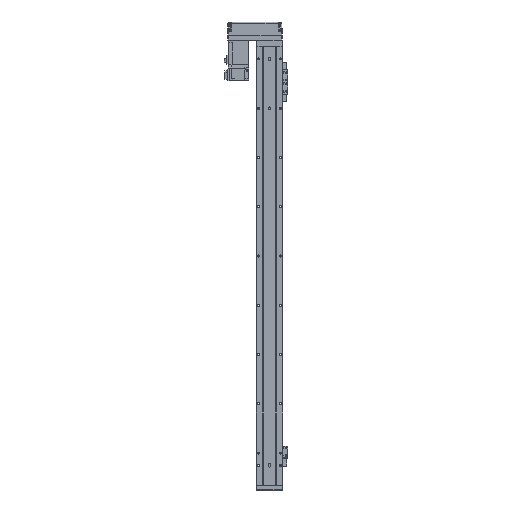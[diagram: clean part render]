
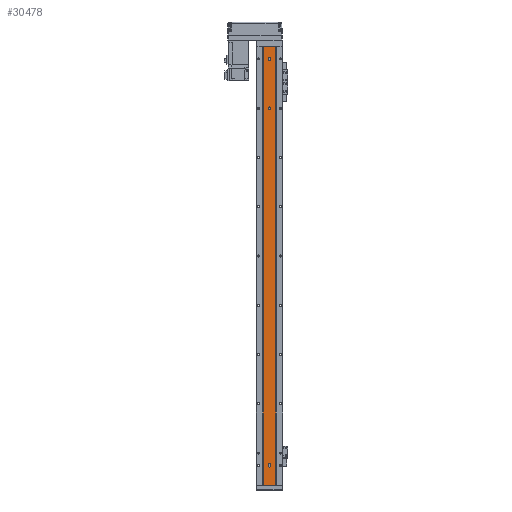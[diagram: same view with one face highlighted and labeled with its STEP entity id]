
A CAD part, front view. The second image highlights one B-rep face of the part: STEP entity #30478.
In plain terms, the highlighted planar face has unit normal (0, -1, 0).
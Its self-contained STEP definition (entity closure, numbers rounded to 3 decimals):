
#368 = LINE ( 'NONE', #13364, #24962 ) ;
#413 = ORIENTED_EDGE ( 'NONE', *, *, #19735, .F. ) ;
#1774 = EDGE_LOOP ( 'NONE', ( #39885, #26046 ) ) ;
#2802 = CIRCLE ( 'NONE', #10057, 2.5 ) ;
#3121 = PLANE ( 'NONE',  #32454 ) ;
#3240 = CARTESIAN_POINT ( 'NONE',  ( 2.5, 1.5, -890. ) ) ;
#3802 = EDGE_CURVE ( 'NONE', #22649, #20340, #2802, .T. ) ;
#4108 = CARTESIAN_POINT ( 'NONE',  ( -12.293, 1.5, -890. ) ) ;
#4459 = EDGE_CURVE ( 'NONE', #29228, #29139, #36420, .T. ) ;
#4849 = ORIENTED_EDGE ( 'NONE', *, *, #3802, .F. ) ;
#5202 = LINE ( 'NONE', #3240, #14915 ) ;
#5769 = ORIENTED_EDGE ( 'NONE', *, *, #27444, .F. ) ;
#5834 = EDGE_LOOP ( 'NONE', ( #28116, #12328, #28574, #32199 ) ) ;
#5952 = CARTESIAN_POINT ( 'NONE',  ( 12.293, 1.5, -890. ) ) ;
#6217 = DIRECTION ( 'NONE',  ( 1., 0., 0. ) ) ;
#6812 = AXIS2_PLACEMENT_3D ( 'NONE', #13171, #10183, #31738 ) ;
#6819 = FACE_BOUND ( 'NONE', #38612, .T. ) ;
#7111 = EDGE_CURVE ( 'NONE', #29139, #29228, #32426, .T. ) ;
#7630 = EDGE_CURVE ( 'NONE', #39751, #10214, #7757, .T. ) ;
#7757 = CIRCLE ( 'NONE', #6812, 2.5 ) ;
#8041 = EDGE_CURVE ( 'NONE', #22955, #17297, #22677, .T. ) ;
#8841 = CARTESIAN_POINT ( 'NONE',  ( 2.5, 1.5, -849. ) ) ;
#9645 = CARTESIAN_POINT ( 'NONE',  ( 12.293, 1.5, 0. ) ) ;
#10057 = AXIS2_PLACEMENT_3D ( 'NONE', #13576, #10582, #32140 ) ;
#10183 = DIRECTION ( 'NONE',  ( 0., -1., 0. ) ) ;
#10214 = VERTEX_POINT ( 'NONE', #15517 ) ;
#10373 = CIRCLE ( 'NONE', #29159, 2.5 ) ;
#10582 = DIRECTION ( 'NONE',  ( 0., -1., 0. ) ) ;
#11176 = CARTESIAN_POINT ( 'NONE',  ( 0., 1.5, -125. ) ) ;
#11387 = VERTEX_POINT ( 'NONE', #12191 ) ;
#11792 = ORIENTED_EDGE ( 'NONE', *, *, #30463, .F. ) ;
#11815 = LINE ( 'NONE', #33156, #27262 ) ;
#11916 = DIRECTION ( 'NONE',  ( 0., -1., 0. ) ) ;
#11998 = CARTESIAN_POINT ( 'NONE',  ( 0., 1.5, -25. ) ) ;
#12191 = CARTESIAN_POINT ( 'NONE',  ( 2.5, 1.5, -851. ) ) ;
#12328 = ORIENTED_EDGE ( 'NONE', *, *, #33022, .F. ) ;
#12625 = VECTOR ( 'NONE', #31209, 1000. ) ;
#13171 = CARTESIAN_POINT ( 'NONE',  ( 0., 1.5, -125. ) ) ;
#13309 = DIRECTION ( 'NONE',  ( 1., 0., 0. ) ) ;
#13364 = CARTESIAN_POINT ( 'NONE',  ( 12.293, 1.5, -890. ) ) ;
#13576 = CARTESIAN_POINT ( 'NONE',  ( 0., 1.5, -849. ) ) ;
#14087 = VERTEX_POINT ( 'NONE', #39819 ) ;
#14480 = VECTOR ( 'NONE', #35635, 1000. ) ;
#14589 = DIRECTION ( 'NONE',  ( 0., -1., 0. ) ) ;
#14714 = DIRECTION ( 'NONE',  ( 1., 0., 0. ) ) ;
#14915 = VECTOR ( 'NONE', #31277, 1000. ) ;
#15089 = CARTESIAN_POINT ( 'NONE',  ( -2.5, 1.5, -849. ) ) ;
#15455 = AXIS2_PLACEMENT_3D ( 'NONE', #21069, #27677, #33448 ) ;
#15517 = CARTESIAN_POINT ( 'NONE',  ( 2.5, 1.5, -125. ) ) ;
#16534 = LINE ( 'NONE', #31360, #30503 ) ;
#17297 = VERTEX_POINT ( 'NONE', #9645 ) ;
#17489 = VERTEX_POINT ( 'NONE', #20163 ) ;
#18307 = VERTEX_POINT ( 'NONE', #25207 ) ;
#18934 = FACE_OUTER_BOUND ( 'NONE', #5834, .T. ) ;
#19735 = EDGE_CURVE ( 'NONE', #10214, #39751, #10373, .T. ) ;
#20163 = CARTESIAN_POINT ( 'NONE',  ( -12.293, 1.5, -890. ) ) ;
#20340 = VERTEX_POINT ( 'NONE', #15089 ) ;
#21069 = CARTESIAN_POINT ( 'NONE',  ( 0., 1.5, -851. ) ) ;
#22649 = VERTEX_POINT ( 'NONE', #8841 ) ;
#22677 = LINE ( 'NONE', #29223, #14480 ) ;
#22955 = VERTEX_POINT ( 'NONE', #37805 ) ;
#23782 = EDGE_CURVE ( 'NONE', #20340, #14087, #11815, .T. ) ;
#23817 = CARTESIAN_POINT ( 'NONE',  ( -2.5, 1.5, -125. ) ) ;
#24688 = DIRECTION ( 'NONE',  ( 0., -1., 0. ) ) ;
#24962 = VECTOR ( 'NONE', #34633, 1000. ) ;
#25073 = ORIENTED_EDGE ( 'NONE', *, *, #7630, .F. ) ;
#25207 = CARTESIAN_POINT ( 'NONE',  ( 12.293, 1.5, -890. ) ) ;
#25216 = LINE ( 'NONE', #4108, #12625 ) ;
#26046 = ORIENTED_EDGE ( 'NONE', *, *, #4459, .F. ) ;
#26556 = DIRECTION ( 'NONE',  ( 0., -1., 0. ) ) ;
#27262 = VECTOR ( 'NONE', #33451, 1000. ) ;
#27444 = EDGE_CURVE ( 'NONE', #11387, #22649, #5202, .T. ) ;
#27677 = DIRECTION ( 'NONE',  ( 0., -1., 0. ) ) ;
#28053 = AXIS2_PLACEMENT_3D ( 'NONE', #33479, #11916, #36573 ) ;
#28116 = ORIENTED_EDGE ( 'NONE', *, *, #8041, .F. ) ;
#28574 = ORIENTED_EDGE ( 'NONE', *, *, #35383, .T. ) ;
#29139 = VERTEX_POINT ( 'NONE', #29273 ) ;
#29159 = AXIS2_PLACEMENT_3D ( 'NONE', #11176, #26556, #14714 ) ;
#29163 = EDGE_LOOP ( 'NONE', ( #413, #25073 ) ) ;
#29223 = CARTESIAN_POINT ( 'NONE',  ( 12.293, 1.5, 0. ) ) ;
#29228 = VERTEX_POINT ( 'NONE', #29916 ) ;
#29273 = CARTESIAN_POINT ( 'NONE',  ( 2.5, 1.5, -25. ) ) ;
#29916 = CARTESIAN_POINT ( 'NONE',  ( -2.5, 1.5, -25. ) ) ;
#30463 = EDGE_CURVE ( 'NONE', #14087, #11387, #35271, .T. ) ;
#30478 = ADVANCED_FACE ( 'NONE', ( #6819, #32828, #33353, #18934 ), #3121, .T. ) ;
#30503 = VECTOR ( 'NONE', #13309, 1000. ) ;
#31209 = DIRECTION ( 'NONE',  ( 0., 0., 1. ) ) ;
#31277 = DIRECTION ( 'NONE',  ( 0., 0., 1. ) ) ;
#31360 = CARTESIAN_POINT ( 'NONE',  ( 12.293, 1.5, -890. ) ) ;
#31605 = ORIENTED_EDGE ( 'NONE', *, *, #23782, .F. ) ;
#31738 = DIRECTION ( 'NONE',  ( 1., 0., 0. ) ) ;
#32140 = DIRECTION ( 'NONE',  ( 1., 0., 0. ) ) ;
#32199 = ORIENTED_EDGE ( 'NONE', *, *, #36512, .T. ) ;
#32426 = CIRCLE ( 'NONE', #35188, 2.5 ) ;
#32454 = AXIS2_PLACEMENT_3D ( 'NONE', #5952, #24688, #6217 ) ;
#32828 = FACE_BOUND ( 'NONE', #29163, .T. ) ;
#33022 = EDGE_CURVE ( 'NONE', #17489, #22955, #25216, .T. ) ;
#33156 = CARTESIAN_POINT ( 'NONE',  ( -2.5, 1.5, -890. ) ) ;
#33353 = FACE_BOUND ( 'NONE', #1774, .T. ) ;
#33448 = DIRECTION ( 'NONE',  ( 1., 0., 0. ) ) ;
#33451 = DIRECTION ( 'NONE',  ( 0., 0., -1. ) ) ;
#33479 = CARTESIAN_POINT ( 'NONE',  ( 0., 1.5, -25. ) ) ;
#34633 = DIRECTION ( 'NONE',  ( 0., 0., 1. ) ) ;
#35188 = AXIS2_PLACEMENT_3D ( 'NONE', #11998, #14589, #36256 ) ;
#35271 = CIRCLE ( 'NONE', #15455, 2.5 ) ;
#35383 = EDGE_CURVE ( 'NONE', #17489, #18307, #16534, .T. ) ;
#35635 = DIRECTION ( 'NONE',  ( 1., 0., 0. ) ) ;
#36256 = DIRECTION ( 'NONE',  ( 1., 0., 0. ) ) ;
#36420 = CIRCLE ( 'NONE', #28053, 2.5 ) ;
#36512 = EDGE_CURVE ( 'NONE', #18307, #17297, #368, .T. ) ;
#36573 = DIRECTION ( 'NONE',  ( 1., 0., 0. ) ) ;
#37805 = CARTESIAN_POINT ( 'NONE',  ( -12.293, 1.5, 0. ) ) ;
#38612 = EDGE_LOOP ( 'NONE', ( #11792, #31605, #4849, #5769 ) ) ;
#39751 = VERTEX_POINT ( 'NONE', #23817 ) ;
#39819 = CARTESIAN_POINT ( 'NONE',  ( -2.5, 1.5, -851. ) ) ;
#39885 = ORIENTED_EDGE ( 'NONE', *, *, #7111, .F. ) ;
